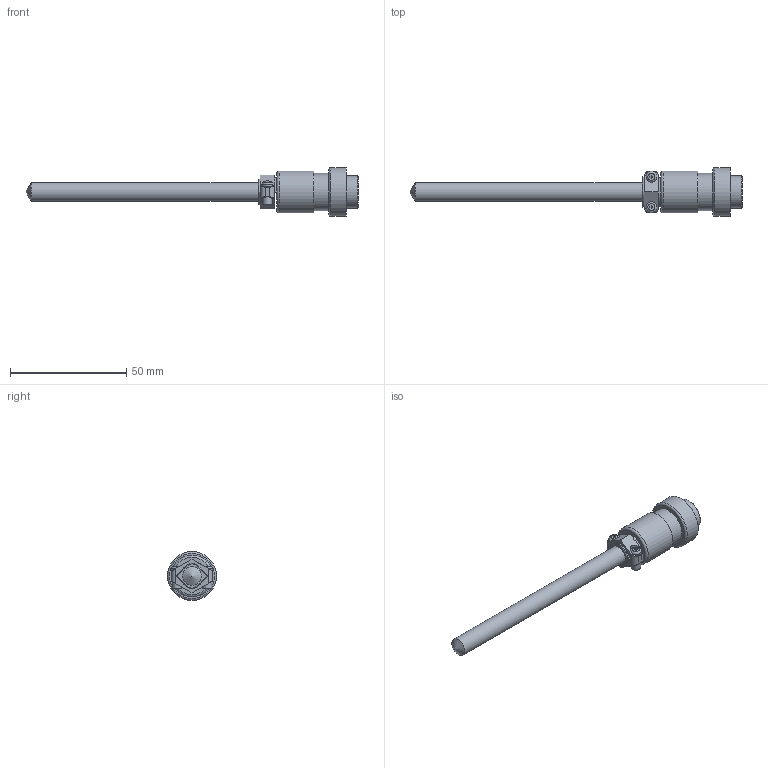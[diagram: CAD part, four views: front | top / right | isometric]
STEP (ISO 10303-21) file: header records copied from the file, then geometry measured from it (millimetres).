
FILE_DESCRIPTION (( 'STEP AP203' ), '1' );
FILE_NAME ('YIT90-6(0).step', '2025-05-28T07:15:24', ( '' ), ( '' ), 'SwSTEP 2.0', 'SolidWorks 2021', '' );
FILE_SCHEMA (( 'CONFIG_CONTROL_DESIGN' ));
Length unit declared in the file: millimetre
Products named in the file (1): YIT90-6(0)
Bounding box: 143 x 21 x 21 mm (x, y, z)
Volume: 13250.4 mm3; surface area: 7283.9 mm2
Topology: 4 solids, 4 shells, 82 faces, 194 edges, 127 vertices
Faces by surface type: plane 50, cylinder 20, torus 4, bspline 4, cone 2, sphere 2
Full cylindrical faces by diameter (mm): 2.5 x1, 3 x1, 4 x2, 4.7 x2, 4.8 x2, 8 x1, 13.5 x1, 14 x1, 16 x2, 18 x1, 21 x1
Entity records: 2381 total; most frequent: CARTESIAN_POINT 615, DIRECTION 328, ORIENTED_EDGE 316, EDGE_CURVE 158, EDGE_LOOP 118, VERTEX_POINT 116, AXIS2_PLACEMENT_3D 113, VECTOR 102
